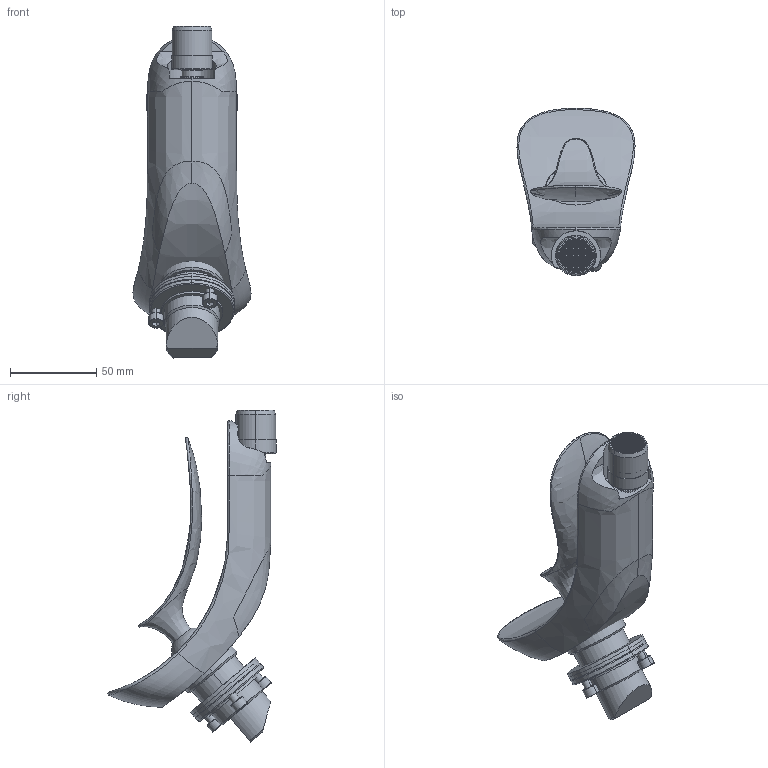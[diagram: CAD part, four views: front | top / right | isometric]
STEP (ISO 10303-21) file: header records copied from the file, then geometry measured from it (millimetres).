
FILE_DESCRIPTION((''),'2;1');
FILE_NAME('CP-LT-93301_ASM_ASM','2019-01-05T',('libo'),(''),'PRO/ENGINEER BY PARAMETRIC TECHNOLOGY CORPORATION, 2014200','PRO/ENGINEER BY PARAMETRIC TECHNOLOGY CORPORATION, 2014200','');
FILE_SCHEMA(('CONFIG_CONTROL_DESIGN'));
Products named in the file (30): ZZ-GZ-9353_102; JG-TT-0159_11; HJ-KT-0135_ASM_12_ASM; JG-ZG-0118_9; ZZ-SB-0393_9; JG-ZG-0119_18; LP-QT-227_4; LP-QT-185_1; BREP_WITH_VOIDS_248398; MANIFOLD_SOLID_BREP_249865; MANIFOLD_SOLID_BREP_251242; MANIFOLD_SOLID_BREP_252556; MANIFOLD_SOLID_BREP_253704; MANIFOLD_SOLID_BREP_254750; MANIFOLD_SOLID_BREP_255669; MANIFOLD_SOLID_BREP_256758; MANIFOLD_SOLID_BREP_257954; MANIFOLD_SOLID_BREP_259185; MANIFOLD_SOLID_BREP_260237; LP-FP-001_1_ASM; ZJ-LT-93301_ASM_19_ASM; PRT0008; PRT0009; PRT0010; PRT0011; PRT0012; PRT0013; ASM0001_ASM; CP-LT-93301_ASM_11_ASM; CP-LT-93301_ASM_ASM
Assembly tree (31 placements, depth 5):
  CP-LT-93301_ASM_ASM
    CP-LT-93301_ASM_11_ASM
      ZJ-LT-93301_ASM_19_ASM
        HJ-KT-0135_ASM_12_ASM
          ZZ-GZ-9353_102
          JG-TT-0159_11
        JG-ZG-0118_9
        ZZ-SB-0393_9
        JG-ZG-0119_18
        LP-QT-227_4
        LP-QT-185_1
        LP-FP-001_1_ASM
          BREP_WITH_VOIDS_248398
          MANIFOLD_SOLID_BREP_249865
          MANIFOLD_SOLID_BREP_251242
          MANIFOLD_SOLID_BREP_252556
          MANIFOLD_SOLID_BREP_253704
          MANIFOLD_SOLID_BREP_254750
          MANIFOLD_SOLID_BREP_255669
          MANIFOLD_SOLID_BREP_256758
          MANIFOLD_SOLID_BREP_257954
          MANIFOLD_SOLID_BREP_259185
          MANIFOLD_SOLID_BREP_260237
      ASM0001_ASM
        PRT0008
        PRT0009
        PRT0010  x3
        PRT0011
        PRT0012
        PRT0013
Bounding box: 68.31 x 97.23 x 192.08 mm (x, y, z)
Volume: 160323.5 mm3; surface area: 90166.8 mm2
Topology: 33 solids, 37 shells, 4880 faces, 14443 edges, 9613 vertices
Faces by surface type: plane 4047, cylinder 412, bspline 184, cone 154, torus 60, sphere 12, extrusion 7, revolution 4
Entity records: 227629 total; most frequent: CARTESIAN_POINT 111081, ORIENTED_EDGE 28662, DIRECTION 16382, EDGE_CURVE 14331, VERTEX_POINT 9541, B_SPLINE_CURVE_WITH_KNOTS 8628, EDGE_LOOP 6304, AXIS2_PLACEMENT_3D 5921
